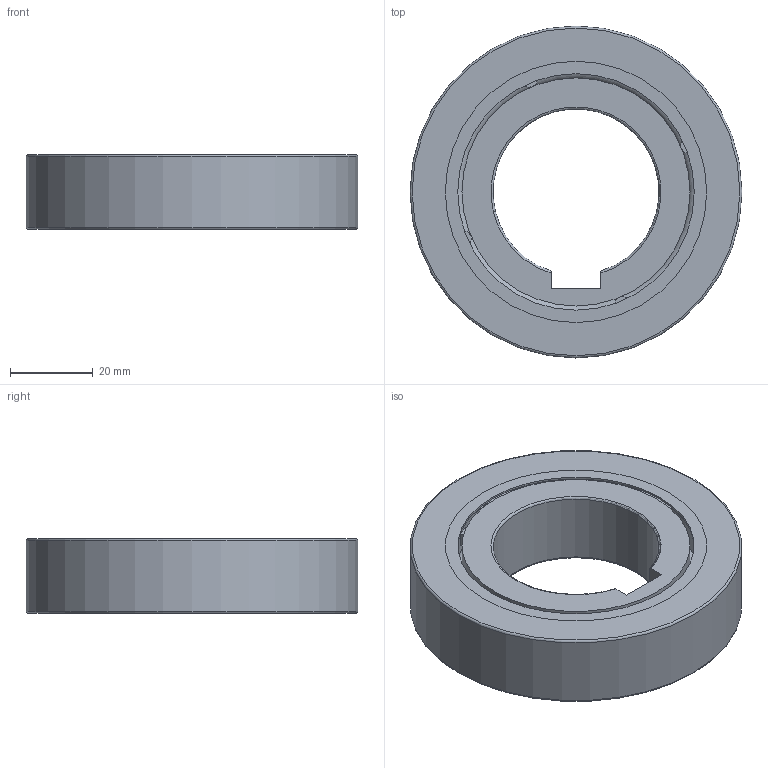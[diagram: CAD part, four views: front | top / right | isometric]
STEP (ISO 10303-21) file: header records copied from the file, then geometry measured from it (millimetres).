
FILE_DESCRIPTION(/* description */ (''),/* implementation_level */ '2;1');
FILE_NAME(/* name */ '301161 FKN 6208.stp',/* time_stamp */ '2016-11-24T09:47:42+01:00',/* author */ (''),/* organization */ (''),/* preprocessor_version */ 'ST-DEVELOPER v15',/* originating_system */ 'SIEMENS PLM Software NX 8.5',/* authorisation */ '');
FILE_SCHEMA (('CONFIG_CONTROL_DESIGN'));
Length unit declared in the file: millimetre
Products named in the file (3): ATE0000079_01; ATE0000114_01; ATE0000115_01
Assembly tree (2 placements, depth 2):
  ATE0000115_01
    ATE0000114_01
    ATE0000079_01
Bounding box: 80 x 80 x 18 mm (x, y, z)
Volume: 58720.3 mm3; surface area: 24607.7 mm2
Topology: 3 solids, 3 shells, 71 faces, 161 edges, 106 vertices
Faces by surface type: plane 45, cylinder 20, torus 6
Full cylindrical faces by diameter (mm): 55 x2, 57 x1, 59 x1, 61 x1, 62 x2, 63 x3, 80 x1
Entity records: 2238 total; most frequent: CARTESIAN_POINT 378, DIRECTION 342, ORIENTED_EDGE 276, EDGE_CURVE 138, AXIS2_PLACEMENT_3D 134, EDGE_LOOP 104, VERTEX_POINT 100, LINE 74
